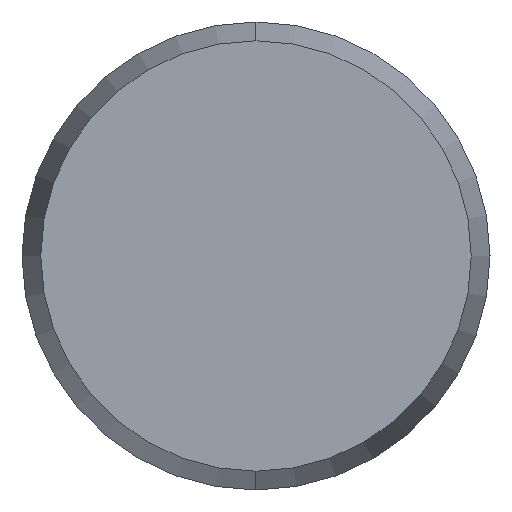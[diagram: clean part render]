
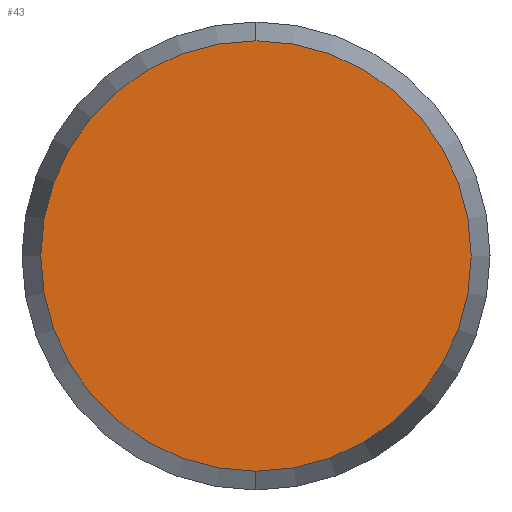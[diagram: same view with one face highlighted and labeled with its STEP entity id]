
A CAD part, left-side view. The second image highlights one B-rep face of the part: STEP entity #43.
In plain terms, the highlighted planar face has unit normal (-1, 0, 0).
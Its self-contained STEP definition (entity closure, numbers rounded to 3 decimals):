
#43 = ADVANCED_FACE ( 'NONE', ( #102 ), #101, .F. ) ;
#44 = EDGE_LOOP ( 'NONE', ( #45, #129 ) ) ;
#45 = ORIENTED_EDGE ( 'NONE', *, *, #57, .F. ) ;
#57 = EDGE_CURVE ( 'NONE', #58, #59, #166, .T. ) ;
#58 = VERTEX_POINT ( 'NONE', #161 ) ;
#59 = VERTEX_POINT ( 'NONE', #160 ) ;
#97 = DIRECTION ( 'NONE',  ( 0., 0., -1. ) ) ;
#98 = DIRECTION ( 'NONE',  ( 1., 0., 0. ) ) ;
#99 = CARTESIAN_POINT ( 'NONE',  ( -18., 0., 0. ) ) ;
#100 = AXIS2_PLACEMENT_3D ( 'NONE', #99, #98, #97 ) ;
#101 = PLANE ( 'NONE',  #100 ) ;
#102 = FACE_OUTER_BOUND ( 'NONE', #44, .T. ) ;
#129 = ORIENTED_EDGE ( 'NONE', *, *, #137, .F. ) ;
#137 = EDGE_CURVE ( 'NONE', #59, #58, #248, .T. ) ;
#160 = CARTESIAN_POINT ( 'NONE',  ( -18., 0., -4.598 ) ) ;
#161 = CARTESIAN_POINT ( 'NONE',  ( -18., 0., 4.598 ) ) ;
#162 = DIRECTION ( 'NONE',  ( 0., 0., -1. ) ) ;
#163 = DIRECTION ( 'NONE',  ( 1., 0., 0. ) ) ;
#164 = CARTESIAN_POINT ( 'NONE',  ( -18., 0., 0. ) ) ;
#165 = AXIS2_PLACEMENT_3D ( 'NONE', #164, #163, #162 ) ;
#166 = CIRCLE ( 'NONE', #165, 4.598 ) ;
#240 = CARTESIAN_POINT ( 'NONE',  ( -18., 0., 0. ) ) ;
#241 = DIRECTION ( 'NONE',  ( 0., 0., -1. ) ) ;
#242 = DIRECTION ( 'NONE',  ( 1., 0., 0. ) ) ;
#247 = AXIS2_PLACEMENT_3D ( 'NONE', #240, #242, #241 ) ;
#248 = CIRCLE ( 'NONE', #247, 4.598 ) ;
